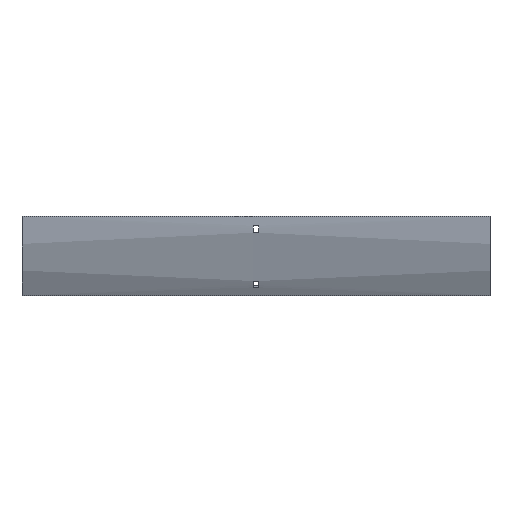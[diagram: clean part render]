
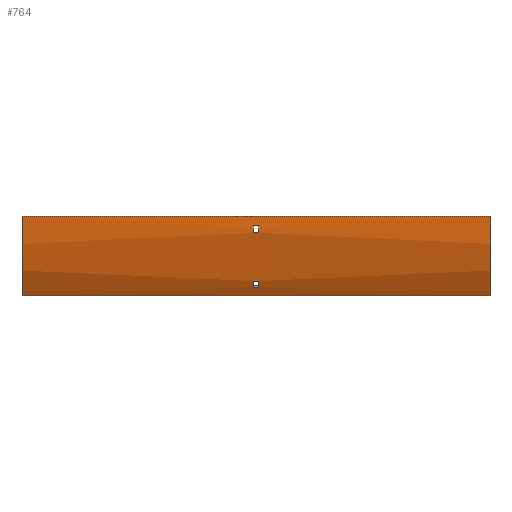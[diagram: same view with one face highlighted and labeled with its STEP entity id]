
A CAD part, front view. The second image highlights one B-rep face of the part: STEP entity #764.
In plain terms, the highlighted cylindrical face has radius 204 mm (diameter 408 mm), a partial arc.
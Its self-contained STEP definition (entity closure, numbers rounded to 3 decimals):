
#5 = DIRECTION ( 'NONE',  ( 0., 0., -1. ) ) ;
#27 = VERTEX_POINT ( 'NONE', #83 ) ;
#52 = VECTOR ( 'NONE', #745, 1000. ) ;
#62 = EDGE_CURVE ( 'NONE', #1492, #975, #725, .T. ) ;
#72 = DIRECTION ( 'NONE',  ( 0., 0., -1. ) ) ;
#83 = CARTESIAN_POINT ( 'NONE',  ( 3.25, -103.647, -12. ) ) ;
#86 = DIRECTION ( 'NONE',  ( -1., 0., 0. ) ) ;
#91 = CARTESIAN_POINT ( 'NONE',  ( 302., -86.231, -83.272 ) ) ;
#97 = AXIS2_PLACEMENT_3D ( 'NONE', #497, #1428, #1018 ) ;
#121 = DIRECTION ( 'NONE',  ( 0., 0., 1. ) ) ;
#123 = AXIS2_PLACEMENT_3D ( 'NONE', #788, #86, #121 ) ;
#132 = EDGE_CURVE ( 'NONE', #292, #1521, #1408, .T. ) ;
#134 = CIRCLE ( 'NONE', #1087, 204. ) ;
#137 = EDGE_CURVE ( 'NONE', #27, #491, #134, .T. ) ;
#140 = ORIENTED_EDGE ( 'NONE', *, *, #305, .F. ) ;
#151 = CARTESIAN_POINT ( 'NONE',  ( 302., 100., 0. ) ) ;
#188 = LINE ( 'NONE', #1367, #943 ) ;
#206 = LINE ( 'NONE', #326, #52 ) ;
#225 = VERTEX_POINT ( 'NONE', #1310 ) ;
#260 = DIRECTION ( 'NONE',  ( 1., 0., 0. ) ) ;
#291 = VERTEX_POINT ( 'NONE', #440 ) ;
#292 = VERTEX_POINT ( 'NONE', #1245 ) ;
#305 = EDGE_CURVE ( 'NONE', #940, #781, #608, .T. ) ;
#317 = EDGE_CURVE ( 'NONE', #291, #225, #188, .T. ) ;
#326 = CARTESIAN_POINT ( 'NONE',  ( 302., -102.916, -21. ) ) ;
#330 = VECTOR ( 'NONE', #911, 1000. ) ;
#360 = FACE_OUTER_BOUND ( 'NONE', #1631, .T. ) ;
#364 = EDGE_CURVE ( 'NONE', #491, #1420, #206, .T. ) ;
#402 = VERTEX_POINT ( 'NONE', #1678 ) ;
#434 = ORIENTED_EDGE ( 'NONE', *, *, #1128, .T. ) ;
#437 = CARTESIAN_POINT ( 'NONE',  ( 3.25, -86.231, -83.272 ) ) ;
#440 = CARTESIAN_POINT ( 'NONE',  ( 302., -104., 0. ) ) ;
#447 = CARTESIAN_POINT ( 'NONE',  ( -302., -76.669, -102. ) ) ;
#461 = CARTESIAN_POINT ( 'NONE',  ( 3.25, -102.916, -21. ) ) ;
#463 = ORIENTED_EDGE ( 'NONE', *, *, #1422, .F. ) ;
#491 = VERTEX_POINT ( 'NONE', #461 ) ;
#497 = CARTESIAN_POINT ( 'NONE',  ( 302., 100., 0. ) ) ;
#509 = DIRECTION ( 'NONE',  ( 1., 0., 0. ) ) ;
#528 = DIRECTION ( 'NONE',  ( 0., 0., 1. ) ) ;
#574 = ORIENTED_EDGE ( 'NONE', *, *, #137, .T. ) ;
#577 = VECTOR ( 'NONE', #1107, 1000. ) ;
#591 = CARTESIAN_POINT ( 'NONE',  ( 302., -82.363, -91.431 ) ) ;
#608 = LINE ( 'NONE', #591, #577 ) ;
#632 = DIRECTION ( 'NONE',  ( 0., 0., -1. ) ) ;
#655 = DIRECTION ( 'NONE',  ( -1., 0., 0. ) ) ;
#667 = DIRECTION ( 'NONE',  ( 1., 0., 0. ) ) ;
#675 = ORIENTED_EDGE ( 'NONE', *, *, #132, .F. ) ;
#700 = AXIS2_PLACEMENT_3D ( 'NONE', #1582, #655, #528 ) ;
#725 = LINE ( 'NONE', #91, #1010 ) ;
#745 = DIRECTION ( 'NONE',  ( -1., 0., 0. ) ) ;
#751 = ORIENTED_EDGE ( 'NONE', *, *, #757, .T. ) ;
#757 = EDGE_CURVE ( 'NONE', #1420, #402, #1204, .T. ) ;
#764 = ADVANCED_FACE ( 'NONE', ( #360, #1541, #1690 ), #1145, .T. ) ;
#767 = CARTESIAN_POINT ( 'NONE',  ( 302., -76.669, -102. ) ) ;
#781 = VERTEX_POINT ( 'NONE', #1268 ) ;
#786 = CARTESIAN_POINT ( 'NONE',  ( 3.25, 100., 0. ) ) ;
#788 = CARTESIAN_POINT ( 'NONE',  ( -3.25, 100., 0. ) ) ;
#795 = DIRECTION ( 'NONE',  ( 1., 0., 0. ) ) ;
#812 = ORIENTED_EDGE ( 'NONE', *, *, #1605, .F. ) ;
#817 = DIRECTION ( 'NONE',  ( 0., 0., -1. ) ) ;
#823 = ORIENTED_EDGE ( 'NONE', *, *, #364, .T. ) ;
#869 = CARTESIAN_POINT ( 'NONE',  ( -3.25, -86.231, -83.272 ) ) ;
#879 = ORIENTED_EDGE ( 'NONE', *, *, #317, .T. ) ;
#886 = EDGE_LOOP ( 'NONE', ( #812, #1431, #1594, #140 ) ) ;
#911 = DIRECTION ( 'NONE',  ( -1., 0., 0. ) ) ;
#922 = AXIS2_PLACEMENT_3D ( 'NONE', #151, #1300, #817 ) ;
#940 = VERTEX_POINT ( 'NONE', #1601 ) ;
#943 = VECTOR ( 'NONE', #1514, 1000. ) ;
#956 = EDGE_LOOP ( 'NONE', ( #823, #751, #434, #574 ) ) ;
#975 = VERTEX_POINT ( 'NONE', #869 ) ;
#995 = AXIS2_PLACEMENT_3D ( 'NONE', #1166, #667, #5 ) ;
#1010 = VECTOR ( 'NONE', #1648, 1000. ) ;
#1018 = DIRECTION ( 'NONE',  ( 0., 0., 1. ) ) ;
#1050 = LINE ( 'NONE', #1291, #1106 ) ;
#1074 = CIRCLE ( 'NONE', #995, 204. ) ;
#1087 = AXIS2_PLACEMENT_3D ( 'NONE', #786, #509, #632 ) ;
#1106 = VECTOR ( 'NONE', #260, 1000. ) ;
#1107 = DIRECTION ( 'NONE',  ( 1., 0., 0. ) ) ;
#1128 = EDGE_CURVE ( 'NONE', #402, #27, #1050, .T. ) ;
#1145 = CYLINDRICAL_SURFACE ( 'NONE', #97, 204. ) ;
#1157 = ORIENTED_EDGE ( 'NONE', *, *, #1400, .T. ) ;
#1166 = CARTESIAN_POINT ( 'NONE',  ( -302., 100., 0. ) ) ;
#1177 = CARTESIAN_POINT ( 'NONE',  ( -3.25, -102.916, -21. ) ) ;
#1204 = CIRCLE ( 'NONE', #123, 204. ) ;
#1234 = CARTESIAN_POINT ( 'NONE',  ( -3.25, 100., 0. ) ) ;
#1245 = CARTESIAN_POINT ( 'NONE',  ( 302., -76.669, -102. ) ) ;
#1268 = CARTESIAN_POINT ( 'NONE',  ( 3.25, -82.363, -91.431 ) ) ;
#1291 = CARTESIAN_POINT ( 'NONE',  ( 302., -103.647, -12. ) ) ;
#1300 = DIRECTION ( 'NONE',  ( 1., 0., 0. ) ) ;
#1310 = CARTESIAN_POINT ( 'NONE',  ( -302., -104., 0. ) ) ;
#1367 = CARTESIAN_POINT ( 'NONE',  ( 302., -104., 0. ) ) ;
#1399 = CIRCLE ( 'NONE', #1568, 204. ) ;
#1400 = EDGE_CURVE ( 'NONE', #225, #1521, #1074, .T. ) ;
#1408 = LINE ( 'NONE', #767, #330 ) ;
#1413 = EDGE_CURVE ( 'NONE', #781, #1492, #1538, .T. ) ;
#1420 = VERTEX_POINT ( 'NONE', #1177 ) ;
#1422 = EDGE_CURVE ( 'NONE', #291, #292, #1653, .T. ) ;
#1428 = DIRECTION ( 'NONE',  ( -1., 0., 0. ) ) ;
#1431 = ORIENTED_EDGE ( 'NONE', *, *, #62, .F. ) ;
#1492 = VERTEX_POINT ( 'NONE', #437 ) ;
#1514 = DIRECTION ( 'NONE',  ( -1., 0., 0. ) ) ;
#1521 = VERTEX_POINT ( 'NONE', #447 ) ;
#1538 = CIRCLE ( 'NONE', #700, 204. ) ;
#1541 = FACE_BOUND ( 'NONE', #956, .T. ) ;
#1568 = AXIS2_PLACEMENT_3D ( 'NONE', #1234, #795, #72 ) ;
#1582 = CARTESIAN_POINT ( 'NONE',  ( 3.25, 100., 0. ) ) ;
#1594 = ORIENTED_EDGE ( 'NONE', *, *, #1413, .F. ) ;
#1601 = CARTESIAN_POINT ( 'NONE',  ( -3.25, -82.363, -91.431 ) ) ;
#1605 = EDGE_CURVE ( 'NONE', #975, #940, #1399, .T. ) ;
#1631 = EDGE_LOOP ( 'NONE', ( #1157, #675, #463, #879 ) ) ;
#1648 = DIRECTION ( 'NONE',  ( -1., 0., 0. ) ) ;
#1653 = CIRCLE ( 'NONE', #922, 204. ) ;
#1678 = CARTESIAN_POINT ( 'NONE',  ( -3.25, -103.647, -12. ) ) ;
#1690 = FACE_BOUND ( 'NONE', #886, .T. ) ;
